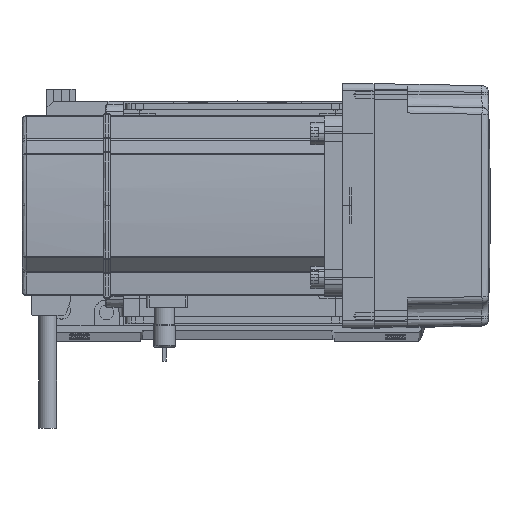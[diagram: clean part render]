
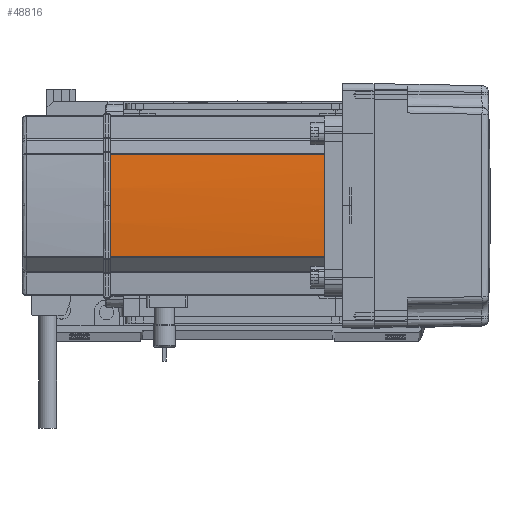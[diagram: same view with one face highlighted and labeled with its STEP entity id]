
A CAD part, top view. The second image highlights one B-rep face of the part: STEP entity #48816.
In plain terms, the highlighted cylindrical face has radius 270 mm (diameter 540 mm), a partial arc.
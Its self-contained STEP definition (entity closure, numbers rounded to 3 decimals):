
#3043 = AXIS2_PLACEMENT_3D ( 'NONE', #46612, #56338, #41709 ) ;
#4516 = CARTESIAN_POINT ( 'NONE',  ( -40., 0., 134. ) ) ;
#4958 = DIRECTION ( 'NONE',  ( 0., 0., 1. ) ) ;
#5319 = CYLINDRICAL_SURFACE ( 'NONE', #19072, 270. ) ;
#12202 = CIRCLE ( 'NONE', #56961, 270. ) ;
#12253 = DIRECTION ( 'NONE',  ( 0., 0., 1. ) ) ;
#12461 = CARTESIAN_POINT ( 'NONE',  ( -39.042, -22.724, 0. ) ) ;
#14238 = EDGE_LOOP ( 'NONE', ( #39480, #45916, #14635, #19907, #24105 ) ) ;
#14588 = CARTESIAN_POINT ( 'NONE',  ( -39.042, -22.724, 134. ) ) ;
#14635 = ORIENTED_EDGE ( 'NONE', *, *, #61767, .T. ) ;
#16494 = DIRECTION ( 'NONE',  ( 1., 0., 0. ) ) ;
#17562 = CIRCLE ( 'NONE', #3043, 270. ) ;
#19072 = AXIS2_PLACEMENT_3D ( 'NONE', #52199, #4958, #23807 ) ;
#19907 = ORIENTED_EDGE ( 'NONE', *, *, #44334, .F. ) ;
#21346 = DIRECTION ( 'NONE',  ( 0., 0., -1. ) ) ;
#21702 = VECTOR ( 'NONE', #12253, 1000. ) ;
#22462 = CARTESIAN_POINT ( 'NONE',  ( -39.042, -22.724, 39. ) ) ;
#23807 = DIRECTION ( 'NONE',  ( 1., 0., 0. ) ) ;
#24105 = ORIENTED_EDGE ( 'NONE', *, *, #55978, .T. ) ;
#24747 = LINE ( 'NONE', #12461, #21702 ) ;
#25997 = CARTESIAN_POINT ( 'NONE',  ( 230., 0., 134. ) ) ;
#27207 = VERTEX_POINT ( 'NONE', #22462 ) ;
#28561 = CARTESIAN_POINT ( 'NONE',  ( 230., 0., 39. ) ) ;
#33747 = LINE ( 'NONE', #34666, #61757 ) ;
#34666 = CARTESIAN_POINT ( 'NONE',  ( -39.042, 22.724, 0. ) ) ;
#38303 = DIRECTION ( 'NONE',  ( 0., 0., -1. ) ) ;
#39480 = ORIENTED_EDGE ( 'NONE', *, *, #44510, .T. ) ;
#39841 = VERTEX_POINT ( 'NONE', #59193 ) ;
#40148 = FACE_OUTER_BOUND ( 'NONE', #14238, .T. ) ;
#40742 = AXIS2_PLACEMENT_3D ( 'NONE', #28561, #38303, #48282 ) ;
#41482 = VERTEX_POINT ( 'NONE', #4516 ) ;
#41709 = DIRECTION ( 'NONE',  ( 1., 0., 0. ) ) ;
#42071 = VERTEX_POINT ( 'NONE', #14588 ) ;
#44020 = DIRECTION ( 'NONE',  ( 0., 0., -1. ) ) ;
#44334 = EDGE_CURVE ( 'NONE', #27207, #39841, #47049, .T. ) ;
#44510 = EDGE_CURVE ( 'NONE', #42071, #41482, #12202, .T. ) ;
#45916 = ORIENTED_EDGE ( 'NONE', *, *, #53115, .T. ) ;
#46612 = CARTESIAN_POINT ( 'NONE',  ( 230., 0., 134. ) ) ;
#47049 = CIRCLE ( 'NONE', #40742, 270. ) ;
#48282 = DIRECTION ( 'NONE',  ( 1., 0., 0. ) ) ;
#48816 = ADVANCED_FACE ( 'NONE', ( #40148 ), #5319, .T. ) ;
#52199 = CARTESIAN_POINT ( 'NONE',  ( 230., 0., 0. ) ) ;
#53115 = EDGE_CURVE ( 'NONE', #41482, #60748, #17562, .T. ) ;
#55978 = EDGE_CURVE ( 'NONE', #27207, #42071, #24747, .T. ) ;
#56338 = DIRECTION ( 'NONE',  ( 0., 0., -1. ) ) ;
#56961 = AXIS2_PLACEMENT_3D ( 'NONE', #25997, #21346, #16494 ) ;
#58307 = CARTESIAN_POINT ( 'NONE',  ( -39.042, 22.724, 134. ) ) ;
#59193 = CARTESIAN_POINT ( 'NONE',  ( -39.042, 22.724, 39. ) ) ;
#60748 = VERTEX_POINT ( 'NONE', #58307 ) ;
#61757 = VECTOR ( 'NONE', #44020, 1000. ) ;
#61767 = EDGE_CURVE ( 'NONE', #60748, #39841, #33747, .T. ) ;
